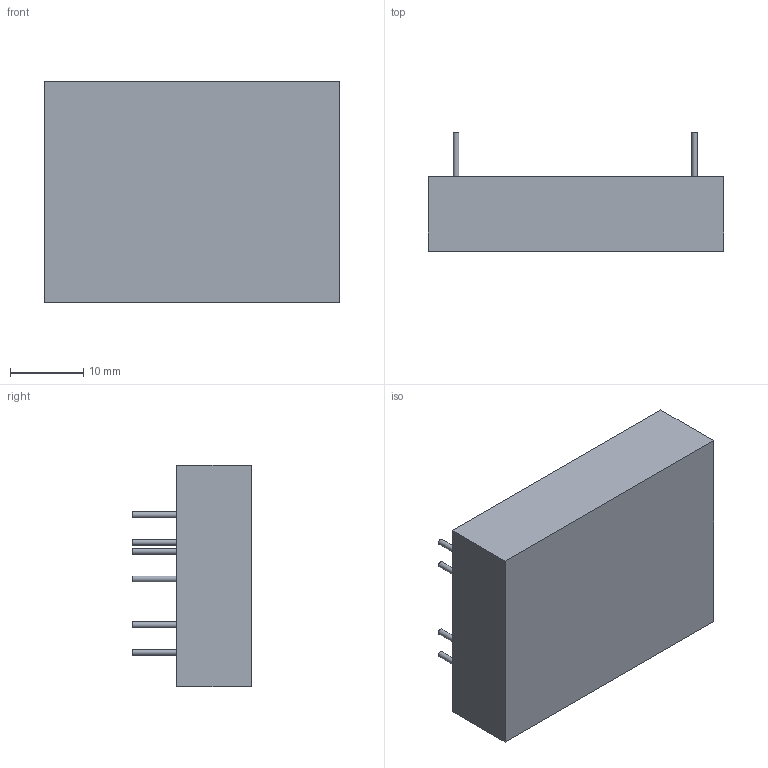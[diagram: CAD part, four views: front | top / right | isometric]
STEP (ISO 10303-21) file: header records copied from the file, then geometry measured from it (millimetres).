
FILE_DESCRIPTION((''),'2;1');
FILE_NAME('C:\Users\ABaranov\Desktop\Модули МДМ 3Д\001 ТУ\МДМ7,5(10)-1П.stp','2016-02-19T10:18:14',('ABaranov'),(''),'Autodesk Inventor 2013','Autodesk Inventor 2013','');
FILE_SCHEMA(('AUTOMOTIVE_DESIGN { 1 0 10303 214 1 1 1 1 }'));
Length unit declared in the file: millimetre
Products named in the file (1): МДМ7,5(10)-1П
Bounding box: 40.2 x 16.2 x 30.2 mm (x, y, z)
Volume: 12404.3 mm3; surface area: 3976.8 mm2
Topology: 8 solids, 8 shells, 27 faces, 33 edges, 22 vertices
Faces by surface type: plane 20, cylinder 7
Full cylindrical faces by diameter (mm): 0.8 x7
Entity records: 567 total; most frequent: DIRECTION 96, CARTESIAN_POINT 76, ORIENTED_EDGE 52, AXIS2_PLACEMENT_3D 42, EDGE_LOOP 34, FACE_OUTER_BOUND 27, ADVANCED_FACE 27, EDGE_CURVE 26
